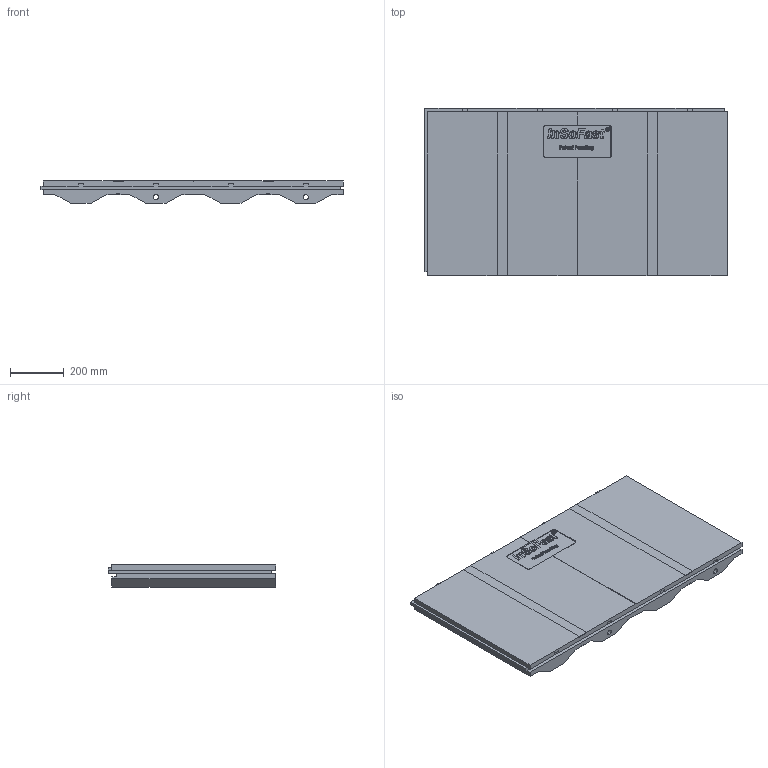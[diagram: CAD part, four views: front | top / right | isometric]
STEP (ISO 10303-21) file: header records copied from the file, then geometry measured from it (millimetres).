
FILE_DESCRIPTION (( 'STEP AP214' ), '1' );
FILE_NAME ('CX44 Website.STEP', '2020-05-18T17:41:26', ( '' ), ( '' ), 'SwSTEP 2.0', 'SolidWorks 2020', '' );
FILE_SCHEMA (( 'AUTOMOTIVE_DESIGN' ));
Length unit declared in the file: inch
Products named in the file (1): CX44 Website
Bounding box: 1125.53 x 622.3 x 82.04 mm (x, y, z)
Volume: 44217601.3 mm3; surface area: 1955953.3 mm2
Topology: 5 solids, 5 shells, 454 faces, 1223 edges, 814 vertices
Faces by surface type: plane 301, bspline 138, cone 8, cylinder 7
Entity records: 34559 total; most frequent: CARTESIAN_POINT 24346, ORIENTED_EDGE 2446, DIRECTION 1428, EDGE_CURVE 1223, VERTEX_POINT 814, LINE 738, VECTOR 738, EDGE_LOOP 493
